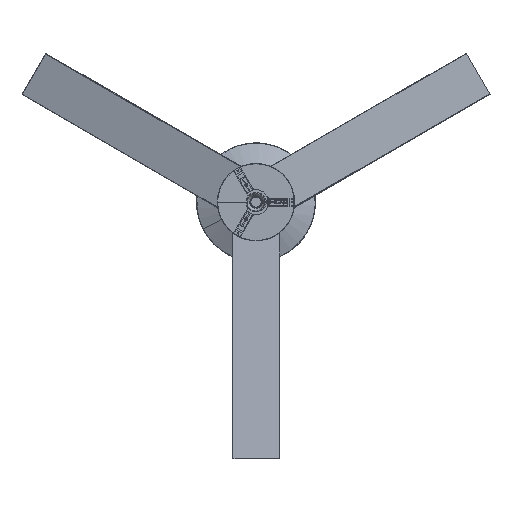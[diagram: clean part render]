
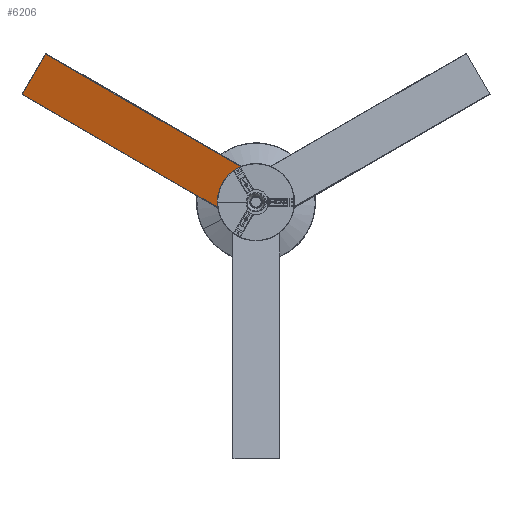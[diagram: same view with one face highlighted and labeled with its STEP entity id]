
A CAD part, top view. The second image highlights one B-rep face of the part: STEP entity #6206.
In plain terms, the highlighted planar face has unit normal (-0.113, -0.195, 0.974).
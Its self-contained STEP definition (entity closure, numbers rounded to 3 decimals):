
#1052=FACE_BOUND('',#8135,.T.);
#1053=FACE_BOUND('',#8136,.T.);
#1054=FACE_BOUND('',#8137,.T.);
#6206=ADVANCED_FACE('',(#7166,#1052,#1053,#1054),#26880,.T.);
#7166=FACE_OUTER_BOUND('',#8134,.T.);
#8134=EDGE_LOOP('',(#9365,#9366,#9367,#9368,#9369,#9370));
#8135=EDGE_LOOP('',(#9371,#9372));
#8136=EDGE_LOOP('',(#9373,#9374));
#8137=EDGE_LOOP('',(#9375,#9376));
#9365=ORIENTED_EDGE('',*,*,#14320,.T.);
#9366=ORIENTED_EDGE('',*,*,#14321,.T.);
#9367=ORIENTED_EDGE('',*,*,#14322,.T.);
#9368=ORIENTED_EDGE('',*,*,#14301,.T.);
#9369=ORIENTED_EDGE('',*,*,#14323,.T.);
#9370=ORIENTED_EDGE('',*,*,#14324,.T.);
#9371=ORIENTED_EDGE('',*,*,#14317,.T.);
#9372=ORIENTED_EDGE('',*,*,#14318,.T.);
#9373=ORIENTED_EDGE('',*,*,#14311,.T.);
#9374=ORIENTED_EDGE('',*,*,#14312,.T.);
#9375=ORIENTED_EDGE('',*,*,#14305,.T.);
#9376=ORIENTED_EDGE('',*,*,#14306,.T.);
#14301=EDGE_CURVE('',#23038,#23040,#18113,.T.);
#14305=EDGE_CURVE('',#23042,#23044,#18115,.T.);
#14306=EDGE_CURVE('',#23044,#23042,#18116,.T.);
#14311=EDGE_CURVE('',#23046,#23048,#18119,.T.);
#14312=EDGE_CURVE('',#23048,#23046,#18120,.T.);
#14317=EDGE_CURVE('',#23050,#23052,#18123,.T.);
#14318=EDGE_CURVE('',#23052,#23050,#18124,.T.);
#14320=EDGE_CURVE('',#23053,#23054,#20535,.T.);
#14321=EDGE_CURVE('',#23054,#23055,#20536,.T.);
#14322=EDGE_CURVE('',#23055,#23038,#20537,.T.);
#14323=EDGE_CURVE('',#23040,#23056,#20538,.T.);
#14324=EDGE_CURVE('',#23056,#23053,#20539,.T.);
#18113=TRIMMED_CURVE($,#19090,(#32916),(#32917),.T.,.CARTESIAN.);
#18115=TRIMMED_CURVE($,#19092,(#32926),(#32927),.T.,.CARTESIAN.);
#18116=TRIMMED_CURVE($,#19093,(#32929),(#32930),.T.,.CARTESIAN.);
#18119=TRIMMED_CURVE($,#19096,(#32942),(#32943),.T.,.CARTESIAN.);
#18120=TRIMMED_CURVE($,#19097,(#32945),(#32946),.T.,.CARTESIAN.);
#18123=TRIMMED_CURVE($,#19100,(#32958),(#32959),.T.,.CARTESIAN.);
#18124=TRIMMED_CURVE($,#19101,(#32961),(#32962),.T.,.CARTESIAN.);
#19090=CIRCLE('',#27539,53.78);
#19092=CIRCLE('',#27541,2.5);
#19093=CIRCLE('',#27542,2.5);
#19096=CIRCLE('',#27545,2.5);
#19097=CIRCLE('',#27546,2.5);
#19100=CIRCLE('',#27549,2.5);
#19101=CIRCLE('',#27550,2.5);
#20535=B_SPLINE_CURVE_WITH_KNOTS('',1,(#32966,#32967),.UNSPECIFIED.,.F.,
 .F.,(2,2),(0.,123.),.UNSPECIFIED.);
#20536=B_SPLINE_CURVE_WITH_KNOTS('',1,(#32968,#32969),.UNSPECIFIED.,.F.,
 .F.,(2,2),(0.,630.),.UNSPECIFIED.);
#20537=B_SPLINE_CURVE_WITH_KNOTS('',1,(#32970,#32971),.UNSPECIFIED.,.F.,
 .F.,(2,2),(0.,16.315),.UNSPECIFIED.);
#20538=B_SPLINE_CURVE_WITH_KNOTS('',1,(#32972,#32973),.UNSPECIFIED.,.F.,
 .F.,(2,2),(0.,14.435),.UNSPECIFIED.);
#20539=B_SPLINE_CURVE_WITH_KNOTS('',1,(#32974,#32975),.UNSPECIFIED.,.F.,
 .F.,(2,2),(0.,630.),.UNSPECIFIED.);
#23038=VERTEX_POINT('',#32877);
#23040=VERTEX_POINT('',#32879);
#23042=VERTEX_POINT('',#32881);
#23044=VERTEX_POINT('',#32883);
#23046=VERTEX_POINT('',#32885);
#23048=VERTEX_POINT('',#32887);
#23050=VERTEX_POINT('',#32889);
#23052=VERTEX_POINT('',#32891);
#23053=VERTEX_POINT('',#32892);
#23054=VERTEX_POINT('',#32893);
#23055=VERTEX_POINT('',#32894);
#23056=VERTEX_POINT('',#32895);
#26880=PLANE('',#27527);
#27527=AXIS2_PLACEMENT_3D('',#32865,#29392,$);
#27539=AXIS2_PLACEMENT_3D($,#32915,#29405,#29406);
#27541=AXIS2_PLACEMENT_3D($,#32925,#29409,#29410);
#27542=AXIS2_PLACEMENT_3D($,#32928,#29411,#29412);
#27545=AXIS2_PLACEMENT_3D($,#32941,#29417,#29418);
#27546=AXIS2_PLACEMENT_3D($,#32944,#29419,#29420);
#27549=AXIS2_PLACEMENT_3D($,#32957,#29425,#29426);
#27550=AXIS2_PLACEMENT_3D($,#32960,#29427,#29428);
#29392=DIRECTION('',(-0.112,-0.195,0.974));
#29405=DIRECTION('',(0.112,0.195,-0.974));
#29406=DIRECTION('',(-0.863,-0.467,-0.193));
#29409=DIRECTION('',(0.112,0.195,-0.974));
#29410=DIRECTION('',(0.487,0.844,0.225));
#29411=DIRECTION('',(0.112,0.195,-0.974));
#29412=DIRECTION('',(-0.487,-0.844,-0.225));
#29417=DIRECTION('',(0.112,0.195,-0.974));
#29418=DIRECTION('',(0.487,0.844,0.225));
#29419=DIRECTION('',(0.112,0.195,-0.974));
#29420=DIRECTION('',(-0.487,-0.844,-0.225));
#29425=DIRECTION('',(0.112,0.195,-0.974));
#29426=DIRECTION('',(0.487,0.844,0.225));
#29427=DIRECTION('',(0.112,0.195,-0.974));
#29428=DIRECTION('',(-0.487,-0.844,-0.225));
#32865=CARTESIAN_POINT('',(7716.49,-10605.235,-47.746));
#32877=CARTESIAN_POINT('',(8540.147,-10689.497,30.485));
#32879=CARTESIAN_POINT('',(8585.09,-10611.653,51.236));
#32881=CARTESIAN_POINT('',(8571.558,-10600.521,51.9));
#32883=CARTESIAN_POINT('',(8569.122,-10604.741,50.775));
#32885=CARTESIAN_POINT('',(8531.913,-10629.736,41.483));
#32887=CARTESIAN_POINT('',(8529.477,-10633.955,40.358));
#32889=CARTESIAN_POINT('',(8526.604,-10678.63,31.094));
#32891=CARTESIAN_POINT('',(8524.168,-10682.849,29.969));
#32892=CARTESIAN_POINT('',(8046.527,-10284.472,54.484));
#32893=CARTESIAN_POINT('',(7986.603,-10388.263,26.815));
#32894=CARTESIAN_POINT('',(8532.199,-10703.263,26.815));
#32895=CARTESIAN_POINT('',(8592.123,-10599.472,54.484));
#32915=CARTESIAN_POINT('',(8586.569,-10664.403,40.861));
#32916=CARTESIAN_POINT('',(8540.147,-10689.497,30.485));
#32917=CARTESIAN_POINT('',(8585.09,-10611.653,51.236));
#32925=CARTESIAN_POINT('',(8570.34,-10602.631,51.338));
#32926=CARTESIAN_POINT('',(8571.558,-10600.521,51.9));
#32927=CARTESIAN_POINT('',(8569.122,-10604.741,50.775));
#32928=CARTESIAN_POINT('',(8570.34,-10602.631,51.338));
#32929=CARTESIAN_POINT('',(8569.122,-10604.741,50.775));
#32930=CARTESIAN_POINT('',(8571.558,-10600.521,51.9));
#32941=CARTESIAN_POINT('',(8530.695,-10631.845,40.92));
#32942=CARTESIAN_POINT('',(8531.913,-10629.736,41.483));
#32943=CARTESIAN_POINT('',(8529.477,-10633.955,40.358));
#32944=CARTESIAN_POINT('',(8530.695,-10631.845,40.92));
#32945=CARTESIAN_POINT('',(8529.477,-10633.955,40.358));
#32946=CARTESIAN_POINT('',(8531.913,-10629.736,41.483));
#32957=CARTESIAN_POINT('',(8525.386,-10680.739,30.532));
#32958=CARTESIAN_POINT('',(8526.604,-10678.63,31.094));
#32959=CARTESIAN_POINT('',(8524.168,-10682.849,29.969));
#32960=CARTESIAN_POINT('',(8525.386,-10680.739,30.532));
#32961=CARTESIAN_POINT('',(8524.168,-10682.849,29.969));
#32962=CARTESIAN_POINT('',(8526.604,-10678.63,31.094));
#32966=CARTESIAN_POINT('',(8046.527,-10284.472,54.484));
#32967=CARTESIAN_POINT('',(7986.603,-10388.263,26.815));
#32968=CARTESIAN_POINT('',(7986.603,-10388.263,26.815));
#32969=CARTESIAN_POINT('',(8532.199,-10703.263,26.815));
#32970=CARTESIAN_POINT('',(8532.199,-10703.263,26.815));
#32971=CARTESIAN_POINT('',(8540.147,-10689.497,30.485));
#32972=CARTESIAN_POINT('',(8585.09,-10611.653,51.236));
#32973=CARTESIAN_POINT('',(8592.123,-10599.472,54.484));
#32974=CARTESIAN_POINT('',(8592.123,-10599.472,54.484));
#32975=CARTESIAN_POINT('',(8046.527,-10284.472,54.484));
